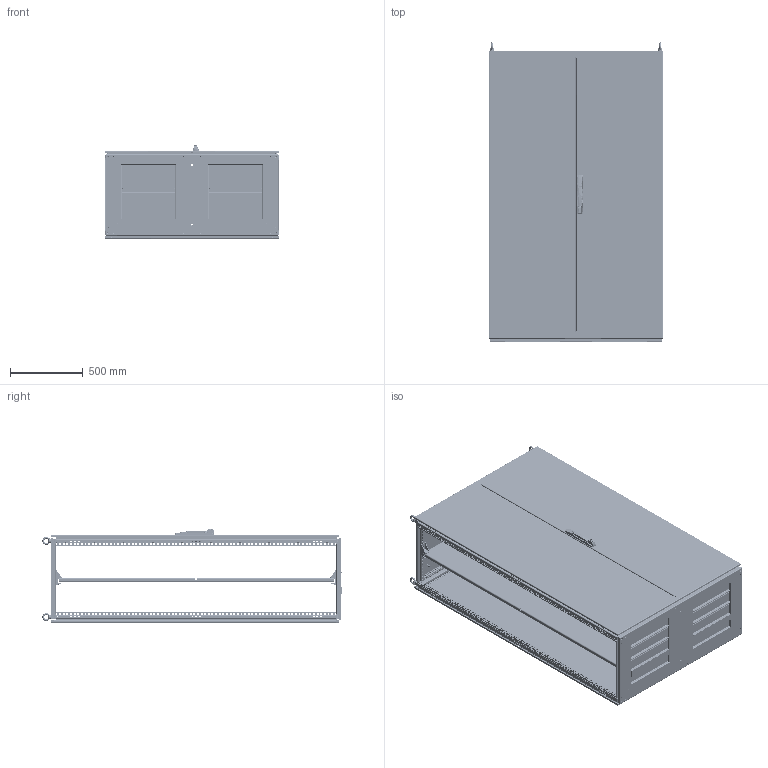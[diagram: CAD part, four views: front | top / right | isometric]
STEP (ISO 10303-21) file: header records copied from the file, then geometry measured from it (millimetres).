
FILE_DESCRIPTION (( 'STEP AP203' ), '1' );
FILE_NAME ('p2kod20126e.STEP', '2016-09-06T14:21:32', ( '' ), ( '' ), 'SwSTEP 2.0', 'SolidWorks 2014', '' );
FILE_SCHEMA (( 'CONFIG_CONTROL_DESIGN' ));
Length unit declared in the file: millimetre
Products named in the file (115): 89142787; 89127700; 89126501; 89124178_89124178; 60127175_60127175; 89124458_After Weld; 60127208; 89122602; 11258012; 60100041_60100041; 89130469_Formed; 89130331_89001805; 89124256_89124256; 89142659; 89130485_89127093; 89127992; 89126235_97790196; 87920638_87920638; 60127140_60127140; 51137001; 87790199; 89101542_closed; 89141847; 60127172_60127172; 89130332; 89124408_89124408; 87954099_B18.2.4.1M - Hex nut, Style 1,  M8 x 1.25 --D-N; 89140407_for top level BBD config; 89126502; 89126236_Installed on LH side; 99411910_Config-Drawing; 60127138_60127138; 60127443_60127443; 89124407; 11458038_11458038; 89141849_87934847; 89130470_89127102; 89128231; 89133232_Cometic Threads; 89142657_Locked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
Assembly tree (276 placements, depth 5):
  p2kod20126e
    89129972_BBD
      89127951
        60127013  x8
        89126102  x4
        30127083  x4
        89126501  x4
        89127992  x4
        89126502  x4
        89126106  x4
        89126832_30127929  x2
          89126833_87938316
          53412000_53412000
    89124255_89124255  x6
      89124256_89124256
      89124408_89124408
      89133232_Cometic Threads
    89143486  x2
    89141846
      89141847
        89141848_2000x600
        60100041_60100041  x2
          87931527_87931527
          87931368_SLEEVE
      89141849_87934847
    89126845_87783293
    89120016  x8
    89122652  x8
    89130021_Installed LH Top side - pin in
      89124210_89124210
      89122602
      87790199
      89124407
      89133232_Cometic Threads
    89124209_Installed LH Bot side - pin in  x2
      89124210_89124210
      89122602
      87790199
      89124407
      89133232_Cometic Threads
    89124209_Installed RH side - pin in
      89124210_89124210
      89122602
      87790199
      89124407
      89133232_Cometic Threads
    89130021_Installed RH Bot side - pin in  x2
      89124210_89124210
      89122602
      87790199
      89124407
      89133232_Cometic Threads
    89130480_for top level BBD config
      89130477_89124438
        89130473_Formed
        60100041_60100041  x2
          87931527_87931527
          87931368_SLEEVE
        89124458_After Weld  x3
        87920638_87920638  x16
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Bounding box: 1198.8 x 2061.79 x 645.72 mm (x, y, z)
Volume: 29082025.1 mm3; surface area: 26148995.8 mm2
Topology: 290 solids, 290 shells, 32982 faces, 88113 edges, 55982 vertices
Faces by surface type: plane 16046, cylinder 11637, torus 2244, bspline 1672, cone 1215, sphere 168
Entity records: 378124 total; most frequent: CARTESIAN_POINT 97893, ORIENTED_EDGE 55312, DIRECTION 53483, EDGE_CURVE 27656, AXIS2_PLACEMENT_3D 18611, VERTEX_POINT 17612, LINE 16261, VECTOR 16261
